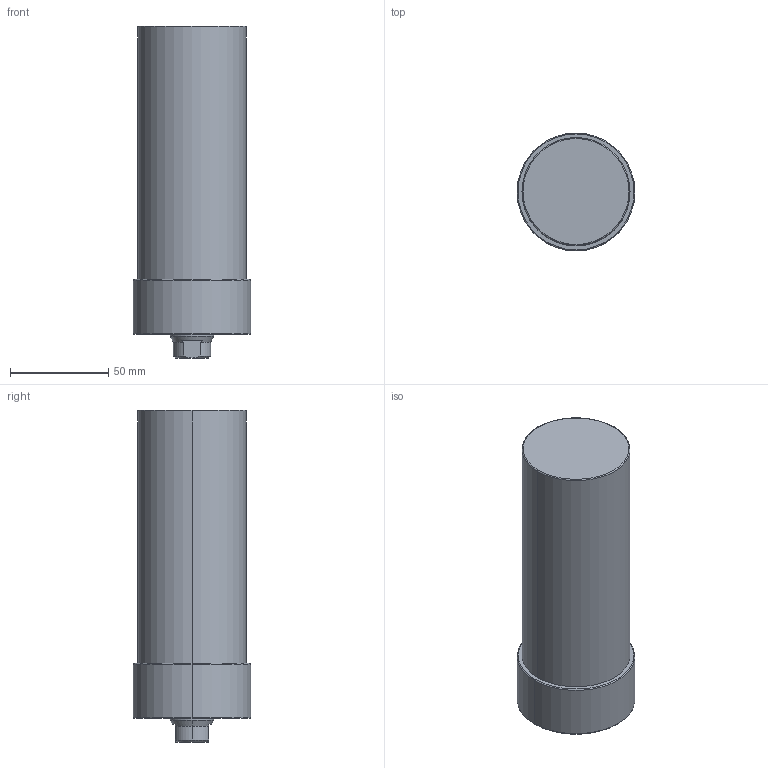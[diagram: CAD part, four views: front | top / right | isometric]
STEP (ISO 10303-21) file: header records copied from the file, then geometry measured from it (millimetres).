
FILE_DESCRIPTION (( 'STEP AP203' ), '1' );
FILE_NAME ('CLLU055-CA-0100.STEP', '2017-05-15T08:10:37', ( '' ), ( '' ), 'SwSTEP 2.0', 'SolidWorks 2015', '' );
FILE_SCHEMA (( 'CONFIG_CONTROL_DESIGN' ));
Length unit declared in the file: millimetre
Products named in the file (1): CLLU055-CA-0100
Bounding box: 60 x 60 x 169 mm (x, y, z)
Volume: 385983 mm3; surface area: 35612.2 mm2
Topology: 1 solids, 1 shells, 64 faces, 143 edges, 80 vertices
Faces by surface type: cone 25, cylinder 23, plane 10, torus 6
Entity records: 1805 total; most frequent: DIRECTION 330, CARTESIAN_POINT 318, ORIENTED_EDGE 266, AXIS2_PLACEMENT_3D 140, EDGE_CURVE 133, VERTEX_POINT 80, CIRCLE 75, EDGE_LOOP 73
